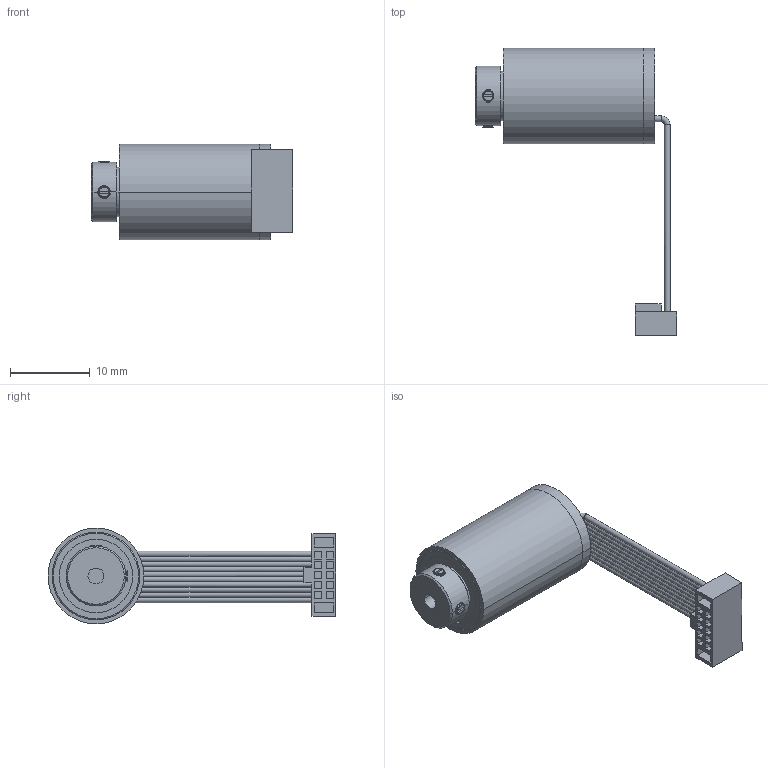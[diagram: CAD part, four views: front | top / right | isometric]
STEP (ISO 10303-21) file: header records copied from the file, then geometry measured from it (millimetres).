
FILE_DESCRIPTION (( 'STEP AP214' ), '1' );
FILE_NAME ('ﾋﾈﾐ-ﾌﾈ212ﾀ.STEP', '2017-05-23T08:31:15', ( '' ), ( '' ), 'SwSTEP 2.0', 'SolidWorks 2013', '' );
FILE_SCHEMA (( 'AUTOMOTIVE_DESIGN' ));
Length unit declared in the file: millimetre
Products named in the file (1): ﾋﾈﾐ-ﾌﾈ212ﾀ
Bounding box: 25.25 x 36.1 x 12 mm (x, y, z)
Volume: 1972 mm3; surface area: 5618.3 mm2
Topology: 18 solids, 18 shells, 884 faces, 2412 edges, 1543 vertices
Faces by surface type: cylinder 250, torus 172, plane 166, sphere 160, cone 98, bspline 38
Entity records: 43449 total; most frequent: CARTESIAN_POINT 11449, ORIENTED_EDGE 4824, DIRECTION 4632, EDGE_CURVE 2412, AXIS2_PLACEMENT_3D 2045, VERTEX_POINT 1543, CIRCLE 1198, EDGE_LOOP 969
